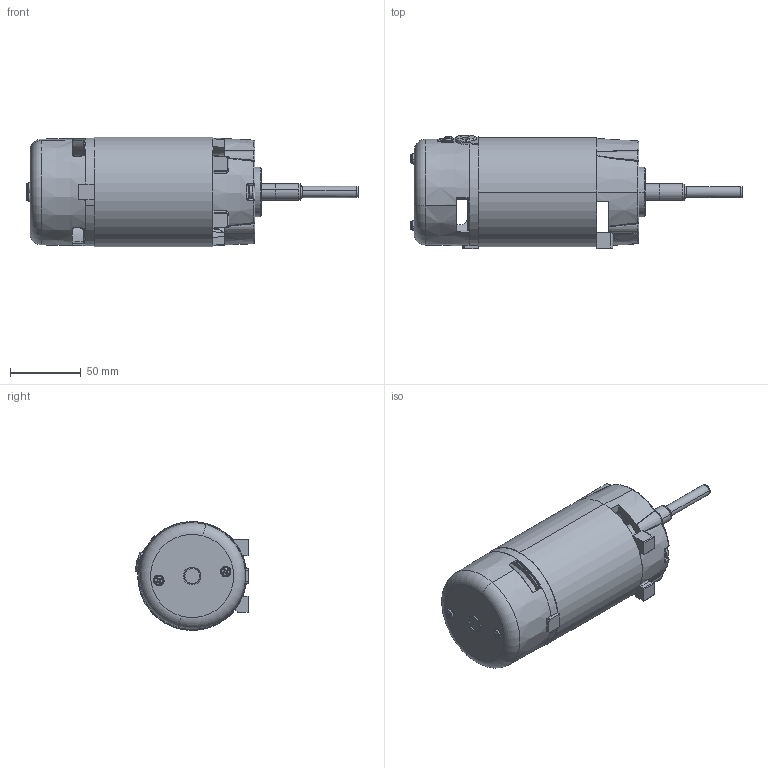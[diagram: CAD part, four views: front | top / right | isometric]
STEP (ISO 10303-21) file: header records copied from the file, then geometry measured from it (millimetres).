
FILE_DESCRIPTION (( 'STEP AP214' ), '1' );
FILE_NAME ('PM2.STEP', '2021-07-05T08:52:29', ( '' ), ( '' ), 'SwSTEP 2.0', 'SolidWorks 2020', '' );
FILE_SCHEMA (( 'AUTOMOTIVE_DESIGN' ));
Length unit declared in the file: millimetre
Products named in the file (1): PM2
Bounding box: 234.37 x 80.28 x 77.01 mm (x, y, z)
Surface area: 84666 mm2 (no closed solid volume)
Topology: 0 solids, 23 shells, 547 faces, 1731 edges, 1181 vertices
Faces by surface type: cone 155, cylinder 134, plane 125, bspline 78, torus 44, sphere 11
Entity records: 31621 total; most frequent: CARTESIAN_POINT 11149, ORIENTED_EDGE 2947, DIRECTION 2931, EDGE_CURVE 1713, AXIS2_PLACEMENT_3D 1213, VERTEX_POINT 1181, CIRCLE 743, EDGE_LOOP 591
